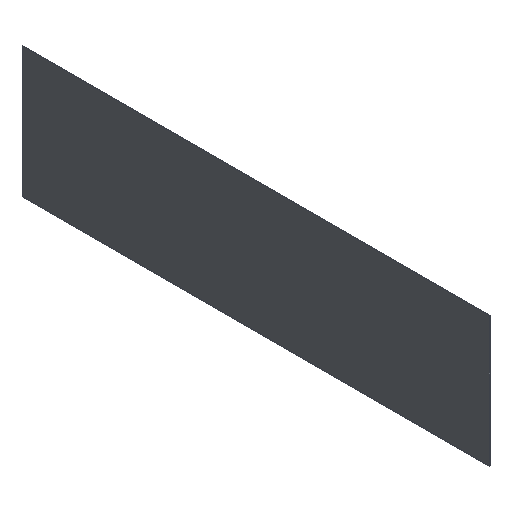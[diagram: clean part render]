
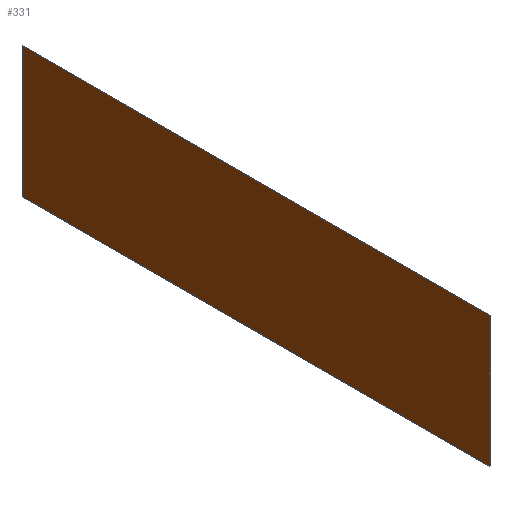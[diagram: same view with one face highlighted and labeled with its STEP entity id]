
A CAD part, isometric view. The second image highlights one B-rep face of the part: STEP entity #331.
In plain terms, the highlighted planar face has unit normal (-1, 0, 0).
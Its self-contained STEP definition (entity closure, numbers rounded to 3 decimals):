
#22 = VERTEX_POINT('',#23);
#23 = CARTESIAN_POINT('',(-459.195,-221.913,2.5));
#32 = PLANE('',#33);
#33 = AXIS2_PLACEMENT_3D('',#34,#35,#36);
#34 = CARTESIAN_POINT('',(-459.195,-221.913,2.5));
#35 = DIRECTION('',(0.,0.,1.));
#36 = DIRECTION('',(0.,1.,0.));
#44 = PLANE('',#45);
#45 = AXIS2_PLACEMENT_3D('',#46,#47,#48);
#46 = CARTESIAN_POINT('',(-459.195,-221.913,23.5));
#47 = DIRECTION('',(-0.,1.,0.));
#48 = DIRECTION('',(0.,0.,-1.));
#85 = VERTEX_POINT('',#86);
#86 = CARTESIAN_POINT('',(-459.195,-146.833,2.5));
#100 = PLANE('',#101);
#101 = AXIS2_PLACEMENT_3D('',#102,#103,#104);
#102 = CARTESIAN_POINT('',(-459.195,-146.833,2.5));
#103 = DIRECTION('',(0.,-1.,0.));
#104 = DIRECTION('',(0.,0.,1.));
#112 = EDGE_CURVE('',#22,#85,#113,.T.);
#113 = SURFACE_CURVE('',#114,(#118,#125),.PCURVE_S1.);
#114 = LINE('',#115,#116);
#115 = CARTESIAN_POINT('',(-459.195,-221.913,2.5));
#116 = VECTOR('',#117,1.);
#117 = DIRECTION('',(0.,1.,0.));
#118 = PCURVE('',#32,#119);
#119 = DEFINITIONAL_REPRESENTATION('',(#120),#124);
#120 = LINE('',#121,#122);
#121 = CARTESIAN_POINT('',(0.,0.));
#122 = VECTOR('',#123,1.);
#123 = DIRECTION('',(1.,0.));
#124 = ( GEOMETRIC_REPRESENTATION_CONTEXT(2) 
PARAMETRIC_REPRESENTATION_CONTEXT() REPRESENTATION_CONTEXT('2D SPACE',''
  ) );
#125 = PCURVE('',#126,#131);
#126 = PLANE('',#127);
#127 = AXIS2_PLACEMENT_3D('',#128,#129,#130);
#128 = CARTESIAN_POINT('',(-459.195,-184.373,13.));
#129 = DIRECTION('',(1.,0.,0.));
#130 = DIRECTION('',(-0.,0.,1.));
#131 = DEFINITIONAL_REPRESENTATION('',(#132),#136);
#132 = LINE('',#133,#134);
#133 = CARTESIAN_POINT('',(-10.5,37.54));
#134 = VECTOR('',#135,1.);
#135 = DIRECTION('',(0.,-1.));
#136 = ( GEOMETRIC_REPRESENTATION_CONTEXT(2) 
PARAMETRIC_REPRESENTATION_CONTEXT() REPRESENTATION_CONTEXT('2D SPACE',''
  ) );
#166 = VERTEX_POINT('',#167);
#167 = CARTESIAN_POINT('',(-459.195,-146.833,23.5));
#181 = PLANE('',#182);
#182 = AXIS2_PLACEMENT_3D('',#183,#184,#185);
#183 = CARTESIAN_POINT('',(-459.195,-146.833,23.5));
#184 = DIRECTION('',(0.,0.,-1.));
#185 = DIRECTION('',(0.,-1.,0.));
#193 = EDGE_CURVE('',#85,#166,#194,.T.);
#194 = SURFACE_CURVE('',#195,(#199,#206),.PCURVE_S1.);
#195 = LINE('',#196,#197);
#196 = CARTESIAN_POINT('',(-459.195,-146.833,2.5));
#197 = VECTOR('',#198,1.);
#198 = DIRECTION('',(0.,0.,1.));
#199 = PCURVE('',#100,#200);
#200 = DEFINITIONAL_REPRESENTATION('',(#201),#205);
#201 = LINE('',#202,#203);
#202 = CARTESIAN_POINT('',(0.,0.));
#203 = VECTOR('',#204,1.);
#204 = DIRECTION('',(1.,0.));
#205 = ( GEOMETRIC_REPRESENTATION_CONTEXT(2) 
PARAMETRIC_REPRESENTATION_CONTEXT() REPRESENTATION_CONTEXT('2D SPACE',''
  ) );
#206 = PCURVE('',#126,#207);
#207 = DEFINITIONAL_REPRESENTATION('',(#208),#212);
#208 = LINE('',#209,#210);
#209 = CARTESIAN_POINT('',(-10.5,-37.54));
#210 = VECTOR('',#211,1.);
#211 = DIRECTION('',(1.,0.));
#212 = ( GEOMETRIC_REPRESENTATION_CONTEXT(2) 
PARAMETRIC_REPRESENTATION_CONTEXT() REPRESENTATION_CONTEXT('2D SPACE',''
  ) );
#242 = VERTEX_POINT('',#243);
#243 = CARTESIAN_POINT('',(-459.195,-221.913,23.5));
#264 = EDGE_CURVE('',#166,#242,#265,.T.);
#265 = SURFACE_CURVE('',#266,(#270,#277),.PCURVE_S1.);
#266 = LINE('',#267,#268);
#267 = CARTESIAN_POINT('',(-459.195,-146.833,23.5));
#268 = VECTOR('',#269,1.);
#269 = DIRECTION('',(0.,-1.,0.));
#270 = PCURVE('',#181,#271);
#271 = DEFINITIONAL_REPRESENTATION('',(#272),#276);
#272 = LINE('',#273,#274);
#273 = CARTESIAN_POINT('',(0.,-0.));
#274 = VECTOR('',#275,1.);
#275 = DIRECTION('',(1.,0.));
#276 = ( GEOMETRIC_REPRESENTATION_CONTEXT(2) 
PARAMETRIC_REPRESENTATION_CONTEXT() REPRESENTATION_CONTEXT('2D SPACE',''
  ) );
#277 = PCURVE('',#126,#278);
#278 = DEFINITIONAL_REPRESENTATION('',(#279),#283);
#279 = LINE('',#280,#281);
#280 = CARTESIAN_POINT('',(10.5,-37.54));
#281 = VECTOR('',#282,1.);
#282 = DIRECTION('',(0.,1.));
#283 = ( GEOMETRIC_REPRESENTATION_CONTEXT(2) 
PARAMETRIC_REPRESENTATION_CONTEXT() REPRESENTATION_CONTEXT('2D SPACE',''
  ) );
#311 = EDGE_CURVE('',#242,#22,#312,.T.);
#312 = SURFACE_CURVE('',#313,(#317,#324),.PCURVE_S1.);
#313 = LINE('',#314,#315);
#314 = CARTESIAN_POINT('',(-459.195,-221.913,23.5));
#315 = VECTOR('',#316,1.);
#316 = DIRECTION('',(0.,0.,-1.));
#317 = PCURVE('',#44,#318);
#318 = DEFINITIONAL_REPRESENTATION('',(#319),#323);
#319 = LINE('',#320,#321);
#320 = CARTESIAN_POINT('',(0.,0.));
#321 = VECTOR('',#322,1.);
#322 = DIRECTION('',(1.,0.));
#323 = ( GEOMETRIC_REPRESENTATION_CONTEXT(2) 
PARAMETRIC_REPRESENTATION_CONTEXT() REPRESENTATION_CONTEXT('2D SPACE',''
  ) );
#324 = PCURVE('',#126,#325);
#325 = DEFINITIONAL_REPRESENTATION('',(#326),#330);
#326 = LINE('',#327,#328);
#327 = CARTESIAN_POINT('',(10.5,37.54));
#328 = VECTOR('',#329,1.);
#329 = DIRECTION('',(-1.,0.));
#330 = ( GEOMETRIC_REPRESENTATION_CONTEXT(2) 
PARAMETRIC_REPRESENTATION_CONTEXT() REPRESENTATION_CONTEXT('2D SPACE',''
  ) );
#331 = ADVANCED_FACE('',(#332),#126,.F.);
#332 = FACE_BOUND('',#333,.F.);
#333 = EDGE_LOOP('',(#334,#335,#336,#337));
#334 = ORIENTED_EDGE('',*,*,#112,.T.);
#335 = ORIENTED_EDGE('',*,*,#193,.T.);
#336 = ORIENTED_EDGE('',*,*,#264,.T.);
#337 = ORIENTED_EDGE('',*,*,#311,.T.);
